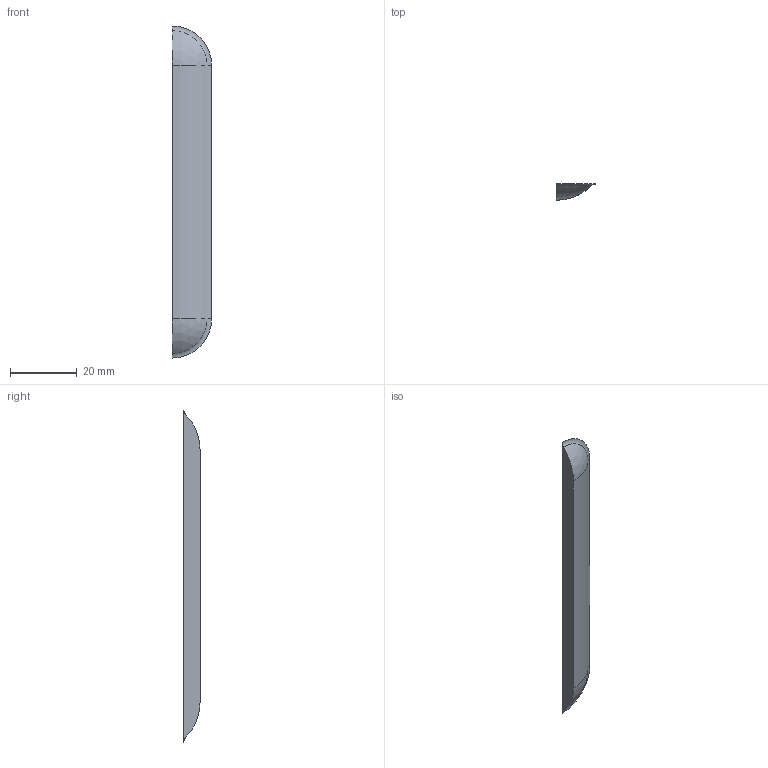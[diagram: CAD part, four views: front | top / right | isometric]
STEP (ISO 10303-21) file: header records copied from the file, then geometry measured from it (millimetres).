
FILE_DESCRIPTION (( 'STEP AP214' ), '1' );
FILE_NAME ('4inch louver.STEP', '2020-09-14T13:43:31', ( '' ), ( '' ), 'SwSTEP 2.0', 'SolidWorks 2020', '' );
FILE_SCHEMA (( 'AUTOMOTIVE_DESIGN' ));
Length unit declared in the file: inch
Products named in the file (1): 4inch louver
Bounding box: 11.82 x 4.83 x 99.84 mm (x, y, z)
Volume: 3279.5 mm3; surface area: 2811.6 mm2
Topology: 1 solids, 1 shells, 8 faces, 16 edges, 10 vertices
Faces by surface type: plane 2, cylinder 2, sphere 2, torus 2
Entity records: 269 total; most frequent: DIRECTION 46, CARTESIAN_POINT 35, ORIENTED_EDGE 32, AXIS2_PLACEMENT_3D 21, EDGE_CURVE 16, CIRCLE 12, VERTEX_POINT 10, EDGE_LOOP 8
